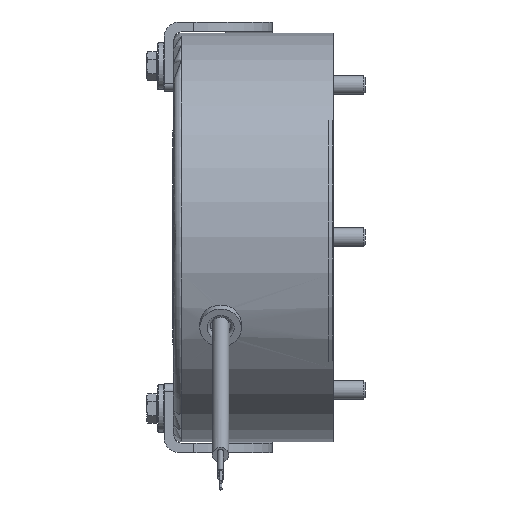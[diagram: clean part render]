
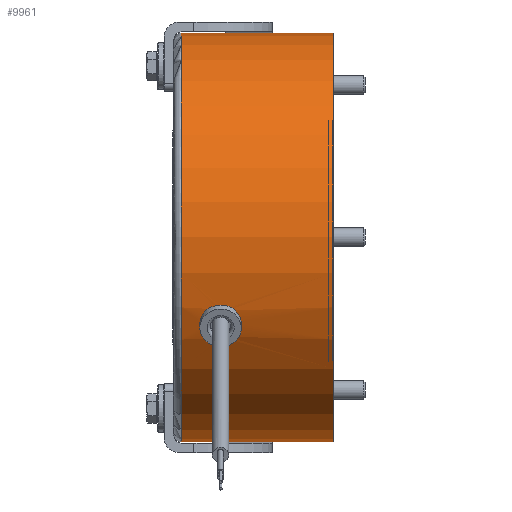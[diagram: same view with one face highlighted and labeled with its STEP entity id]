
A CAD part, front view. The second image highlights one B-rep face of the part: STEP entity #9961.
In plain terms, the highlighted cylindrical face has radius 65 mm (diameter 130 mm), a full revolution.
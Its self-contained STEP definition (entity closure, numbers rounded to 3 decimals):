
#197=B_SPLINE_CURVE_WITH_KNOTS('',3,(#16224,#16225,#16226,#16227,#16228,
#16229,#16230,#16231,#16232,#16233,#16234,#16235,#16236,#16237,#16238,#16239,
#16240,#16241),.UNSPECIFIED.,.F.,.F.,(4,2,2,2,2,2,2,2,4),(0.767,
0.959,1.151,1.343,1.534,1.726,
1.918,2.109,2.301),.UNSPECIFIED.);
#198=B_SPLINE_CURVE_WITH_KNOTS('',3,(#16244,#16245,#16246,#16247,#16248,
#16249,#16250,#16251,#16252,#16253,#16254,#16255,#16256,#16257,#16258,#16259,
#16260,#16261,#16262),.UNSPECIFIED.,.F.,.F.,(4,2,2,2,3,2,2,2,4),(2.301,
2.493,2.685,2.877,3.068,3.26,
3.452,3.644,3.836),.UNSPECIFIED.);
#453=CYLINDRICAL_SURFACE('',#10826,65.);
#642=FACE_BOUND('',#2166,.T.);
#1010=CIRCLE('',#10827,65.);
#1011=CIRCLE('',#10828,65.);
#1012=CIRCLE('',#10829,65.);
#1013=CIRCLE('',#10830,65.);
#1014=CIRCLE('',#10831,65.);
#1597=FACE_OUTER_BOUND('',#2165,.T.);
#2165=EDGE_LOOP('',(#7487,#7488,#7489,#7490,#7491,#7492,#7493));
#2166=EDGE_LOOP('',(#7494,#7495,#7496,#7497,#7498,#7499));
#2863=LINE('',#16214,#3394);
#2864=LINE('',#16222,#3395);
#2865=LINE('',#16243,#3396);
#3394=VECTOR('',#12838,65.);
#3395=VECTOR('',#12845,10.);
#3396=VECTOR('',#12846,10.);
#4157=VERTEX_POINT('',#16209);
#4158=VERTEX_POINT('',#16210);
#4159=VERTEX_POINT('',#16213);
#4160=VERTEX_POINT('',#16215);
#4161=VERTEX_POINT('',#16217);
#4162=VERTEX_POINT('',#16220);
#4163=VERTEX_POINT('',#16221);
#4164=VERTEX_POINT('',#16223);
#4165=VERTEX_POINT('',#16242);
#5363=EDGE_CURVE('',#4157,#4158,#1010,.T.);
#5364=EDGE_CURVE('',#4158,#4157,#1011,.T.);
#5365=EDGE_CURVE('',#4158,#4159,#2863,.T.);
#5366=EDGE_CURVE('',#4160,#4159,#1012,.T.);
#5367=EDGE_CURVE('',#4161,#4160,#1013,.T.);
#5368=EDGE_CURVE('',#4159,#4161,#1014,.T.);
#5369=EDGE_CURVE('',#4162,#4163,#2864,.T.);
#5370=EDGE_CURVE('',#4162,#4164,#197,.T.);
#5371=EDGE_CURVE('',#4165,#4164,#2865,.T.);
#5372=EDGE_CURVE('',#4164,#4162,#198,.T.);
#7487=ORIENTED_EDGE('',*,*,#5363,.F.);
#7488=ORIENTED_EDGE('',*,*,#5364,.F.);
#7489=ORIENTED_EDGE('',*,*,#5365,.T.);
#7490=ORIENTED_EDGE('',*,*,#5366,.F.);
#7491=ORIENTED_EDGE('',*,*,#5367,.F.);
#7492=ORIENTED_EDGE('',*,*,#5368,.F.);
#7493=ORIENTED_EDGE('',*,*,#5365,.F.);
#7494=ORIENTED_EDGE('',*,*,#5369,.T.);
#7495=ORIENTED_EDGE('',*,*,#5369,.F.);
#7496=ORIENTED_EDGE('',*,*,#5370,.T.);
#7497=ORIENTED_EDGE('',*,*,#5371,.F.);
#7498=ORIENTED_EDGE('',*,*,#5371,.T.);
#7499=ORIENTED_EDGE('',*,*,#5372,.T.);
#9961=ADVANCED_FACE('',(#1597,#642),#453,.T.);
#10826=AXIS2_PLACEMENT_3D('',#16208,#12832,#12833);
#10827=AXIS2_PLACEMENT_3D('',#16211,#12834,#12835);
#10828=AXIS2_PLACEMENT_3D('',#16212,#12836,#12837);
#10829=AXIS2_PLACEMENT_3D('',#16216,#12839,#12840);
#10830=AXIS2_PLACEMENT_3D('',#16218,#12841,#12842);
#10831=AXIS2_PLACEMENT_3D('',#16219,#12843,#12844);
#12832=DIRECTION('center_axis',(1.,0.,0.));
#12833=DIRECTION('ref_axis',(0.,1.,0.));
#12834=DIRECTION('center_axis',(1.,0.,0.));
#12835=DIRECTION('ref_axis',(0.,1.,0.));
#12836=DIRECTION('center_axis',(1.,0.,0.));
#12837=DIRECTION('ref_axis',(0.,1.,0.));
#12838=DIRECTION('',(-1.,0.,0.));
#12839=DIRECTION('center_axis',(-1.,0.,0.));
#12840=DIRECTION('ref_axis',(0.,-1.,0.));
#12841=DIRECTION('center_axis',(-1.,0.,0.));
#12842=DIRECTION('ref_axis',(0.,-1.,0.));
#12843=DIRECTION('center_axis',(-1.,0.,0.));
#12844=DIRECTION('ref_axis',(0.,-1.,0.));
#12845=DIRECTION('',(1.,0.,0.));
#12846=DIRECTION('',(1.,0.,0.));
#16208=CARTESIAN_POINT('Origin',(-25.425,0.,0.));
#16209=CARTESIAN_POINT('',(0.,65.,0.));
#16210=CARTESIAN_POINT('',(0.,-65.,0.));
#16211=CARTESIAN_POINT('Origin',(0.,0.,0.));
#16212=CARTESIAN_POINT('Origin',(0.,0.,0.));
#16213=CARTESIAN_POINT('',(-48.35,-65.,0.));
#16214=CARTESIAN_POINT('',(-25.425,-65.,0.));
#16215=CARTESIAN_POINT('',(-48.35,65.,0.));
#16216=CARTESIAN_POINT('Origin',(-48.35,0.,0.));
#16217=CARTESIAN_POINT('',(-48.35,0.,65.));
#16218=CARTESIAN_POINT('Origin',(-48.35,0.,0.));
#16219=CARTESIAN_POINT('Origin',(-48.35,0.,0.));
#16220=CARTESIAN_POINT('',(-30.75,-58.91,-27.47));
#16221=CARTESIAN_POINT('',(-29.25,-58.91,-27.47));
#16222=CARTESIAN_POINT('',(-25.425,-58.91,-27.47));
#16223=CARTESIAN_POINT('',(-40.95,-58.91,-27.47));
#16224=CARTESIAN_POINT('Ctrl Pts',(-30.75,-58.91,-27.47));
#16225=CARTESIAN_POINT('Ctrl Pts',(-30.75,-58.64,-28.05));
#16226=CARTESIAN_POINT('Ctrl Pts',(-30.879,-58.342,
-28.663));
#16227=CARTESIAN_POINT('Ctrl Pts',(-31.401,-57.779,
-29.783));
#16228=CARTESIAN_POINT('Ctrl Pts',(-31.795,-57.513,
-30.289));
#16229=CARTESIAN_POINT('Ctrl Pts',(-32.702,-57.088,-31.084));
#16230=CARTESIAN_POINT('Ctrl Pts',(-33.275,-56.899,
-31.426));
#16231=CARTESIAN_POINT('Ctrl Pts',(-34.529,-56.647,
-31.878));
#16232=CARTESIAN_POINT('Ctrl Pts',(-35.211,-56.584,
-31.988));
#16233=CARTESIAN_POINT('Ctrl Pts',(-36.489,-56.584,
-31.988));
#16234=CARTESIAN_POINT('Ctrl Pts',(-37.171,-56.647,
-31.878));
#16235=CARTESIAN_POINT('Ctrl Pts',(-38.425,-56.899,
-31.426));
#16236=CARTESIAN_POINT('Ctrl Pts',(-38.998,-57.088,
-31.084));
#16237=CARTESIAN_POINT('Ctrl Pts',(-39.905,-57.513,
-30.289));
#16238=CARTESIAN_POINT('Ctrl Pts',(-40.299,-57.779,
-29.783));
#16239=CARTESIAN_POINT('Ctrl Pts',(-40.821,-58.342,
-28.663));
#16240=CARTESIAN_POINT('Ctrl Pts',(-40.95,-58.64,-28.05));
#16241=CARTESIAN_POINT('Ctrl Pts',(-40.95,-58.91,-27.47));
#16242=CARTESIAN_POINT('',(-42.45,-58.91,-27.47));
#16243=CARTESIAN_POINT('',(-25.425,-58.91,-27.47));
#16244=CARTESIAN_POINT('Ctrl Pts',(-40.95,-58.91,-27.47));
#16245=CARTESIAN_POINT('Ctrl Pts',(-40.95,-59.18,-26.891));
#16246=CARTESIAN_POINT('Ctrl Pts',(-40.821,-59.459,
-26.268));
#16247=CARTESIAN_POINT('Ctrl Pts',(-40.299,-59.954,
-25.117));
#16248=CARTESIAN_POINT('Ctrl Pts',(-39.905,-60.172,
-24.588));
#16249=CARTESIAN_POINT('Ctrl Pts',(-38.998,-60.507,
-23.751));
#16250=CARTESIAN_POINT('Ctrl Pts',(-38.425,-60.647,
-23.387));
#16251=CARTESIAN_POINT('Ctrl Pts',(-37.171,-60.832,-22.903));
#16252=CARTESIAN_POINT('Ctrl Pts',(-36.489,-60.876,-22.784));
#16253=CARTESIAN_POINT('Ctrl Pts',(-35.85,-60.876,-22.784));
#16254=CARTESIAN_POINT('Ctrl Pts',(-35.211,-60.876,-22.784));
#16255=CARTESIAN_POINT('Ctrl Pts',(-34.529,-60.832,-22.903));
#16256=CARTESIAN_POINT('Ctrl Pts',(-33.275,-60.647,
-23.387));
#16257=CARTESIAN_POINT('Ctrl Pts',(-32.702,-60.507,-23.751));
#16258=CARTESIAN_POINT('Ctrl Pts',(-31.795,-60.172,
-24.588));
#16259=CARTESIAN_POINT('Ctrl Pts',(-31.401,-59.954,
-25.117));
#16260=CARTESIAN_POINT('Ctrl Pts',(-30.879,-59.459,-26.268));
#16261=CARTESIAN_POINT('Ctrl Pts',(-30.75,-59.18,-26.891));
#16262=CARTESIAN_POINT('Ctrl Pts',(-30.75,-58.91,-27.47));
